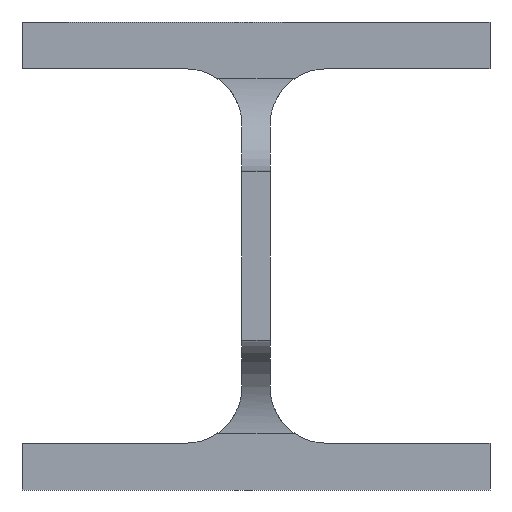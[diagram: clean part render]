
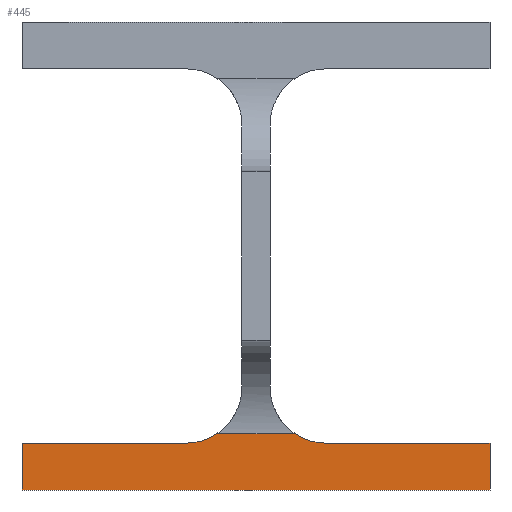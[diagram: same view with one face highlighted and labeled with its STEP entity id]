
A CAD part, front view. The second image highlights one B-rep face of the part: STEP entity #445.
In plain terms, the highlighted planar face has unit normal (0, -1, 0).
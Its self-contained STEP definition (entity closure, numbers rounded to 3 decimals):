
#27 = VERTEX_POINT ( 'NONE', #440 ) ;
#271 = CARTESIAN_POINT ( 'NONE',  ( 7985., 1952., 4102. ) ) ;
#328 = VERTEX_POINT ( 'NONE', #2178 ) ;
#440 = CARTESIAN_POINT ( 'NONE',  ( 7950., 1952., 4090. ) ) ;
#445 = ADVANCED_FACE ( 'NONE', ( #1090 ), #2028, .T. ) ;
#467 = DIRECTION ( 'NONE',  ( 0., -1., 0. ) ) ;
#524 = DIRECTION ( 'NONE',  ( 1., 0., 0. ) ) ;
#580 = CARTESIAN_POINT ( 'NONE',  ( 8008.367, 1952., 4092. ) ) ;
#591 = CARTESIAN_POINT ( 'NONE',  ( 7950., 1952., 4090. ) ) ;
#643 = VECTOR ( 'NONE', #1559, 1000. ) ;
#647 = VECTOR ( 'NONE', #524, 1000. ) ;
#690 = DIRECTION ( 'NONE',  ( 0., 1., 0. ) ) ;
#718 = DIRECTION ( 'NONE',  ( 0., 0., -1. ) ) ;
#723 = DIRECTION ( 'NONE',  ( 0., 0., 1. ) ) ;
#744 = VECTOR ( 'NONE', #900, 1000. ) ;
#770 = CARTESIAN_POINT ( 'NONE',  ( 7985., 1952., 4090. ) ) ;
#772 = EDGE_LOOP ( 'NONE', ( #2764, #2106, #916, #2424, #2988, #1268, #1497, #1490 ) ) ;
#869 = VECTOR ( 'NONE', #3893, 1000. ) ;
#900 = DIRECTION ( 'NONE',  ( -1., 0., 0. ) ) ;
#916 = ORIENTED_EDGE ( 'NONE', *, *, #2229, .T. ) ;
#1039 = CARTESIAN_POINT ( 'NONE',  ( 8015., 1952., 4102. ) ) ;
#1068 = CIRCLE ( 'NONE', #1069, 12. ) ;
#1069 = AXIS2_PLACEMENT_3D ( 'NONE', #1039, #690, #718 ) ;
#1090 = FACE_OUTER_BOUND ( 'NONE', #772, .T. ) ;
#1191 = EDGE_CURVE ( 'NONE', #2797, #3757, #2660, .T. ) ;
#1192 = LINE ( 'NONE', #1478, #647 ) ;
#1268 = ORIENTED_EDGE ( 'NONE', *, *, #3150, .T. ) ;
#1315 = DIRECTION ( 'NONE',  ( 0., 0., -1. ) ) ;
#1478 = CARTESIAN_POINT ( 'NONE',  ( 8050., 1952., 4080. ) ) ;
#1490 = ORIENTED_EDGE ( 'NONE', *, *, #1968, .T. ) ;
#1497 = ORIENTED_EDGE ( 'NONE', *, *, #2731, .T. ) ;
#1559 = DIRECTION ( 'NONE',  ( -1., 0., 0. ) ) ;
#1626 = CARTESIAN_POINT ( 'NONE',  ( 7991.633, 1952., 4092. ) ) ;
#1717 = DIRECTION ( 'NONE',  ( 0., 0., -1. ) ) ;
#1733 = LINE ( 'NONE', #2678, #2518 ) ;
#1877 = CARTESIAN_POINT ( 'NONE',  ( 8050., 1952., 4090. ) ) ;
#1909 = DIRECTION ( 'NONE',  ( 0., 1., 0. ) ) ;
#1966 = CARTESIAN_POINT ( 'NONE',  ( 8050., 1952., 4080. ) ) ;
#1968 = EDGE_CURVE ( 'NONE', #2456, #2797, #2805, .T. ) ;
#1976 = VERTEX_POINT ( 'NONE', #3459 ) ;
#2005 = DIRECTION ( 'NONE',  ( 0., 0., -1. ) ) ;
#2028 = PLANE ( 'NONE',  #3115 ) ;
#2106 = ORIENTED_EDGE ( 'NONE', *, *, #3849, .T. ) ;
#2178 = CARTESIAN_POINT ( 'NONE',  ( 7950., 1952., 4080. ) ) ;
#2183 = CARTESIAN_POINT ( 'NONE',  ( 9000., 1952., 4092. ) ) ;
#2214 = LINE ( 'NONE', #1877, #3397 ) ;
#2229 = EDGE_CURVE ( 'NONE', #27, #328, #1733, .T. ) ;
#2257 = LINE ( 'NONE', #3172, #869 ) ;
#2323 = CARTESIAN_POINT ( 'NONE',  ( 8050., 1952., 4090. ) ) ;
#2331 = EDGE_CURVE ( 'NONE', #328, #2495, #1192, .T. ) ;
#2410 = EDGE_CURVE ( 'NONE', #2495, #3640, #2214, .T. ) ;
#2424 = ORIENTED_EDGE ( 'NONE', *, *, #2331, .T. ) ;
#2456 = VERTEX_POINT ( 'NONE', #580 ) ;
#2495 = VERTEX_POINT ( 'NONE', #1966 ) ;
#2518 = VECTOR ( 'NONE', #2005, 1000. ) ;
#2660 = CIRCLE ( 'NONE', #2979, 12. ) ;
#2678 = CARTESIAN_POINT ( 'NONE',  ( 7950., 1952., 4080. ) ) ;
#2731 = EDGE_CURVE ( 'NONE', #1976, #2456, #1068, .T. ) ;
#2764 = ORIENTED_EDGE ( 'NONE', *, *, #1191, .T. ) ;
#2797 = VERTEX_POINT ( 'NONE', #1626 ) ;
#2805 = LINE ( 'NONE', #2183, #643 ) ;
#2979 = AXIS2_PLACEMENT_3D ( 'NONE', #271, #1909, #1315 ) ;
#2988 = ORIENTED_EDGE ( 'NONE', *, *, #2410, .T. ) ;
#3115 = AXIS2_PLACEMENT_3D ( 'NONE', #3312, #467, #1717 ) ;
#3150 = EDGE_CURVE ( 'NONE', #3640, #1976, #2257, .T. ) ;
#3172 = CARTESIAN_POINT ( 'NONE',  ( 8015., 1952., 4090. ) ) ;
#3312 = CARTESIAN_POINT ( 'NONE',  ( 9000., 1952., 4090. ) ) ;
#3360 = LINE ( 'NONE', #591, #744 ) ;
#3397 = VECTOR ( 'NONE', #723, 1000. ) ;
#3459 = CARTESIAN_POINT ( 'NONE',  ( 8015., 1952., 4090. ) ) ;
#3640 = VERTEX_POINT ( 'NONE', #2323 ) ;
#3757 = VERTEX_POINT ( 'NONE', #770 ) ;
#3849 = EDGE_CURVE ( 'NONE', #3757, #27, #3360, .T. ) ;
#3893 = DIRECTION ( 'NONE',  ( -1., 0., 0. ) ) ;
